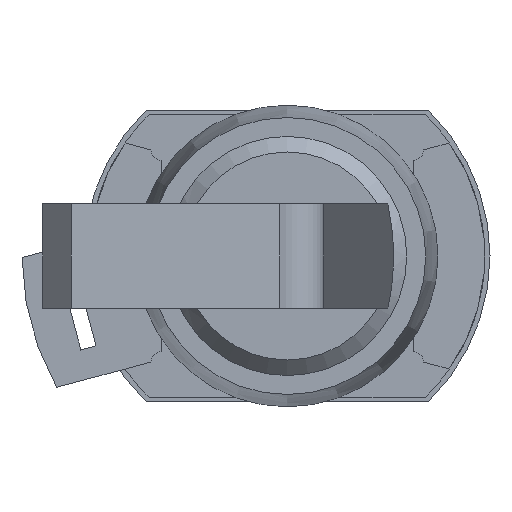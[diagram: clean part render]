
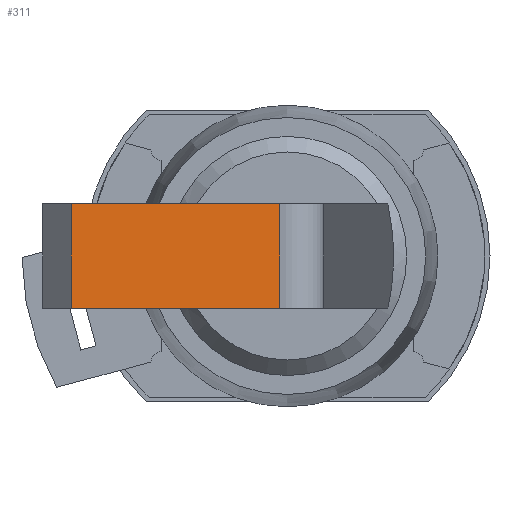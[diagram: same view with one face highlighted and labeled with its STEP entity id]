
A CAD part, left-side view. The second image highlights one B-rep face of the part: STEP entity #311.
In plain terms, the highlighted planar face has unit normal (-0.729, -0.685, 0).
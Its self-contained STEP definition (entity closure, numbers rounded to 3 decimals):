
#31 = EDGE_CURVE ( 'NONE', #3143, #3142, #1998, .T. ) ;
#35 = EDGE_CURVE ( 'NONE', #3150, #3144, #2005, .T. ) ;
#39 = EDGE_CURVE ( 'NONE', #3150, #3147, #2011, .T. ) ;
#40 = EDGE_CURVE ( 'NONE', #3143, #3145, #2016, .T. ) ;
#41 = EDGE_CURVE ( 'NONE', #3145, #3144, #2009, .T. ) ;
#42 = EDGE_CURVE ( 'NONE', #3147, #3142, #2012, .T. ) ;
#311 = ADVANCED_FACE ( 'NONE', ( #3536 ), #4098, .T. ) ;
#1292 = EDGE_LOOP ( 'NONE', ( #7909, #7910, #7911, #7912, #7913, #7914 ) ) ;
#1998 = LINE ( 'NONE', #2261, #2002 ) ;
#2002 = VECTOR ( 'NONE', #2262, 1000. ) ;
#2005 = LINE ( 'NONE', #2273, #2007 ) ;
#2007 = VECTOR ( 'NONE', #2274, 1000. ) ;
#2009 = LINE ( 'NONE', #2285, #2020 ) ;
#2011 = LINE ( 'NONE', #2283, #2014 ) ;
#2012 = LINE ( 'NONE', #2287, #2022 ) ;
#2014 = VECTOR ( 'NONE', #2284, 1000. ) ;
#2016 = LINE ( 'NONE', #2278, #2018 ) ;
#2018 = VECTOR ( 'NONE', #2286, 1000. ) ;
#2020 = VECTOR ( 'NONE', #2288, 1000. ) ;
#2022 = VECTOR ( 'NONE', #2290, 1000. ) ;
#2261 = CARTESIAN_POINT ( 'NONE',  ( 2.175, 0.723, 5. ) ) ;
#2262 = DIRECTION ( 'NONE',  ( -0.685, 0.729, 0. ) ) ;
#2273 = CARTESIAN_POINT ( 'NONE',  ( -16.659, 20.76, -5. ) ) ;
#2274 = DIRECTION ( 'NONE',  ( 0.685, -0.729, 0. ) ) ;
#2278 = CARTESIAN_POINT ( 'NONE',  ( 2.175, 0.723, 0. ) ) ;
#2283 = CARTESIAN_POINT ( 'NONE',  ( -16.659, 20.76, 0. ) ) ;
#2284 = DIRECTION ( 'NONE',  ( 0., 0., 1. ) ) ;
#2285 = CARTESIAN_POINT ( 'NONE',  ( 2.175, 0.723, -5. ) ) ;
#2286 = DIRECTION ( 'NONE',  ( 0., 0., -1. ) ) ;
#2287 = CARTESIAN_POINT ( 'NONE',  ( -16.659, 20.76, 5. ) ) ;
#2288 = DIRECTION ( 'NONE',  ( -0.685, 0.729, 0. ) ) ;
#2290 = DIRECTION ( 'NONE',  ( 0.685, -0.729, 0. ) ) ;
#3011 = AXIS2_PLACEMENT_3D ( 'NONE', #4101, #4107, #4108 ) ;
#3142 = VERTEX_POINT ( 'NONE', #7208 ) ;
#3143 = VERTEX_POINT ( 'NONE', #7209 ) ;
#3144 = VERTEX_POINT ( 'NONE', #7210 ) ;
#3145 = VERTEX_POINT ( 'NONE', #7211 ) ;
#3147 = VERTEX_POINT ( 'NONE', #7213 ) ;
#3150 = VERTEX_POINT ( 'NONE', #7216 ) ;
#3536 = FACE_OUTER_BOUND ( 'NONE', #1292, .T. ) ;
#4098 = PLANE ( 'NONE',  #3011 ) ;
#4101 = CARTESIAN_POINT ( 'NONE',  ( 2.175, 0.723, 0. ) ) ;
#4107 = DIRECTION ( 'NONE',  ( -0.729, -0.685, 0. ) ) ;
#4108 = DIRECTION ( 'NONE',  ( 0.685, -0.729, 0. ) ) ;
#7208 = CARTESIAN_POINT ( 'NONE',  ( -1.5, 4.633, 5. ) ) ;
#7209 = CARTESIAN_POINT ( 'NONE',  ( 2.175, 0.723, 5. ) ) ;
#7210 = CARTESIAN_POINT ( 'NONE',  ( -1.5, 4.633, -5. ) ) ;
#7211 = CARTESIAN_POINT ( 'NONE',  ( 2.175, 0.723, -5. ) ) ;
#7213 = CARTESIAN_POINT ( 'NONE',  ( -16.659, 20.76, 5. ) ) ;
#7216 = CARTESIAN_POINT ( 'NONE',  ( -16.659, 20.76, -5. ) ) ;
#7909 = ORIENTED_EDGE ( 'NONE', *, *, #41, .F. ) ;
#7910 = ORIENTED_EDGE ( 'NONE', *, *, #40, .F. ) ;
#7911 = ORIENTED_EDGE ( 'NONE', *, *, #31, .T. ) ;
#7912 = ORIENTED_EDGE ( 'NONE', *, *, #42, .F. ) ;
#7913 = ORIENTED_EDGE ( 'NONE', *, *, #39, .F. ) ;
#7914 = ORIENTED_EDGE ( 'NONE', *, *, #35, .T. ) ;
